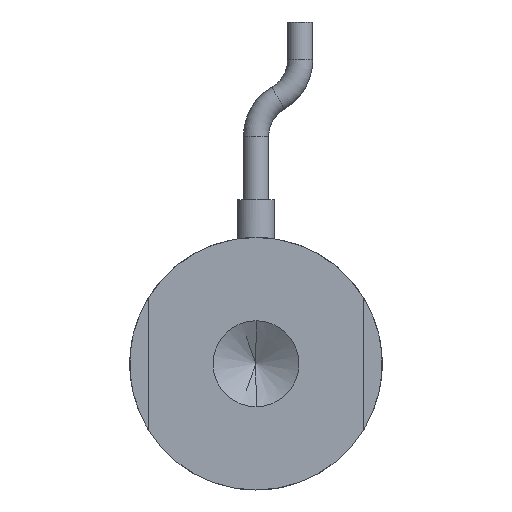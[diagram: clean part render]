
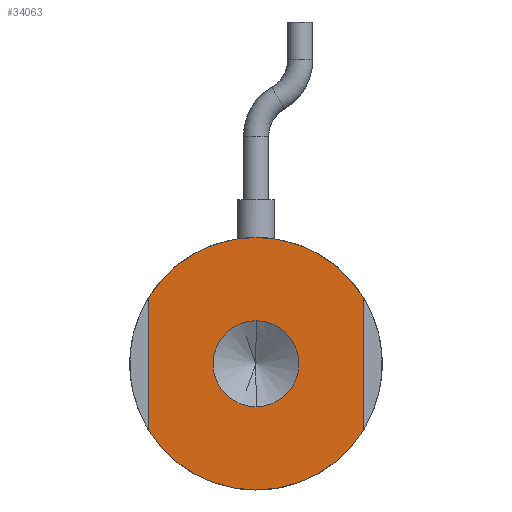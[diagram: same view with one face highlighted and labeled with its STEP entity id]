
A CAD part, front view. The second image highlights one B-rep face of the part: STEP entity #34063.
In plain terms, the highlighted planar face has unit normal (0, -1, 0).
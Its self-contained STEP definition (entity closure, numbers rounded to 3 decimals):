
#201 = AXIS2_PLACEMENT_3D ( 'NONE', #16140, #40409, #19613 ) ;
#343 = CARTESIAN_POINT ( 'NONE',  ( 0., 0., 0. ) ) ;
#852 = CARTESIAN_POINT ( 'NONE',  ( 0., 0., 10. ) ) ;
#2330 = DIRECTION ( 'NONE',  ( 0., 1., 0. ) ) ;
#2788 = DIRECTION ( 'NONE',  ( 0., 0., -1. ) ) ;
#2806 = PLANE ( 'NONE',  #9006 ) ;
#3147 = CIRCLE ( 'NONE', #33165, 10. ) ;
#3651 = CARTESIAN_POINT ( 'NONE',  ( 0., 0., 0. ) ) ;
#3909 = DIRECTION ( 'NONE',  ( 0., 0., 1. ) ) ;
#4718 = CARTESIAN_POINT ( 'NONE',  ( 0., 0., -3.4 ) ) ;
#4764 = VERTEX_POINT ( 'NONE', #24193 ) ;
#6185 = CARTESIAN_POINT ( 'NONE',  ( 0., 0., -10. ) ) ;
#6186 = VECTOR ( 'NONE', #28546, 1000. ) ;
#6237 = VERTEX_POINT ( 'NONE', #8543 ) ;
#6340 = DIRECTION ( 'NONE',  ( 0., 0., 1. ) ) ;
#7166 = DIRECTION ( 'NONE',  ( 0., 0., 1. ) ) ;
#8482 = AXIS2_PLACEMENT_3D ( 'NONE', #35695, #14991, #39221 ) ;
#8543 = CARTESIAN_POINT ( 'NONE',  ( 8.5, 0., -5.268 ) ) ;
#9006 = AXIS2_PLACEMENT_3D ( 'NONE', #20110, #27125, #6340 ) ;
#10559 = ORIENTED_EDGE ( 'NONE', *, *, #39523, .F. ) ;
#11416 = ORIENTED_EDGE ( 'NONE', *, *, #35374, .F. ) ;
#11761 = EDGE_CURVE ( 'NONE', #13696, #13052, #3147, .T. ) ;
#12253 = VERTEX_POINT ( 'NONE', #20045 ) ;
#12539 = AXIS2_PLACEMENT_3D ( 'NONE', #44497, #23655, #2788 ) ;
#12607 = EDGE_CURVE ( 'NONE', #4764, #6237, #31295, .T. ) ;
#13052 = VERTEX_POINT ( 'NONE', #852 ) ;
#13696 = VERTEX_POINT ( 'NONE', #17061 ) ;
#14991 = DIRECTION ( 'NONE',  ( 0., 1., 0. ) ) ;
#16140 = CARTESIAN_POINT ( 'NONE',  ( 0., 0., 0. ) ) ;
#16407 = ORIENTED_EDGE ( 'NONE', *, *, #26790, .F. ) ;
#16544 = AXIS2_PLACEMENT_3D ( 'NONE', #3651, #27898, #7166 ) ;
#16679 = DIRECTION ( 'NONE',  ( 0., 0., -1. ) ) ;
#17061 = CARTESIAN_POINT ( 'NONE',  ( -8.5, 0., 5.268 ) ) ;
#18078 = EDGE_CURVE ( 'NONE', #6237, #42987, #38796, .T. ) ;
#18973 = CARTESIAN_POINT ( 'NONE',  ( -8.5, 0., -5.268 ) ) ;
#19613 = DIRECTION ( 'NONE',  ( 0., 0., -1. ) ) ;
#20045 = CARTESIAN_POINT ( 'NONE',  ( 0., 0., 3.4 ) ) ;
#20110 = CARTESIAN_POINT ( 'NONE',  ( 0., 0., 0. ) ) ;
#20191 = EDGE_LOOP ( 'NONE', ( #10559, #28418, #21708, #24652, #32645, #38729 ) ) ;
#21497 = CIRCLE ( 'NONE', #201, 3.4 ) ;
#21708 = ORIENTED_EDGE ( 'NONE', *, *, #18078, .F. ) ;
#23192 = CARTESIAN_POINT ( 'NONE',  ( 0., 0., 0. ) ) ;
#23655 = DIRECTION ( 'NONE',  ( 0., -1., 0. ) ) ;
#24193 = CARTESIAN_POINT ( 'NONE',  ( 8.5, 0., 5.268 ) ) ;
#24652 = ORIENTED_EDGE ( 'NONE', *, *, #12607, .F. ) ;
#24687 = LINE ( 'NONE', #25159, #6186 ) ;
#24739 = DIRECTION ( 'NONE',  ( 0., 1., 0. ) ) ;
#25159 = CARTESIAN_POINT ( 'NONE',  ( -8.5, 0., 0. ) ) ;
#26426 = FACE_OUTER_BOUND ( 'NONE', #20191, .T. ) ;
#26674 = DIRECTION ( 'NONE',  ( 0., 0., 1. ) ) ;
#26790 = EDGE_CURVE ( 'NONE', #12253, #39261, #41812, .T. ) ;
#27125 = DIRECTION ( 'NONE',  ( 0., 1., 0. ) ) ;
#27760 = EDGE_CURVE ( 'NONE', #42987, #44610, #35682, .T. ) ;
#27898 = DIRECTION ( 'NONE',  ( 0., 1., 0. ) ) ;
#28418 = ORIENTED_EDGE ( 'NONE', *, *, #27760, .F. ) ;
#28546 = DIRECTION ( 'NONE',  ( 0., 0., 1. ) ) ;
#31295 = LINE ( 'NONE', #34203, #38398 ) ;
#32330 = AXIS2_PLACEMENT_3D ( 'NONE', #343, #24739, #3909 ) ;
#32645 = ORIENTED_EDGE ( 'NONE', *, *, #35776, .F. ) ;
#33165 = AXIS2_PLACEMENT_3D ( 'NONE', #23192, #2330, #26674 ) ;
#33974 = EDGE_LOOP ( 'NONE', ( #11416, #16407 ) ) ;
#34063 = ADVANCED_FACE ( 'NONE', ( #45009, #26426 ), #2806, .F. ) ;
#34203 = CARTESIAN_POINT ( 'NONE',  ( 8.5, 0., 0. ) ) ;
#34446 = CIRCLE ( 'NONE', #16544, 10. ) ;
#35374 = EDGE_CURVE ( 'NONE', #39261, #12253, #21497, .T. ) ;
#35682 = CIRCLE ( 'NONE', #8482, 10. ) ;
#35695 = CARTESIAN_POINT ( 'NONE',  ( 0., 0., 0. ) ) ;
#35776 = EDGE_CURVE ( 'NONE', #13052, #4764, #34446, .T. ) ;
#38398 = VECTOR ( 'NONE', #16679, 1000. ) ;
#38729 = ORIENTED_EDGE ( 'NONE', *, *, #11761, .F. ) ;
#38796 = CIRCLE ( 'NONE', #32330, 10. ) ;
#39221 = DIRECTION ( 'NONE',  ( 0., 0., 1. ) ) ;
#39261 = VERTEX_POINT ( 'NONE', #4718 ) ;
#39523 = EDGE_CURVE ( 'NONE', #44610, #13696, #24687, .T. ) ;
#40409 = DIRECTION ( 'NONE',  ( 0., -1., 0. ) ) ;
#41812 = CIRCLE ( 'NONE', #12539, 3.4 ) ;
#42987 = VERTEX_POINT ( 'NONE', #6185 ) ;
#44497 = CARTESIAN_POINT ( 'NONE',  ( 0., 0., 0. ) ) ;
#44610 = VERTEX_POINT ( 'NONE', #18973 ) ;
#45009 = FACE_BOUND ( 'NONE', #33974, .T. ) ;
